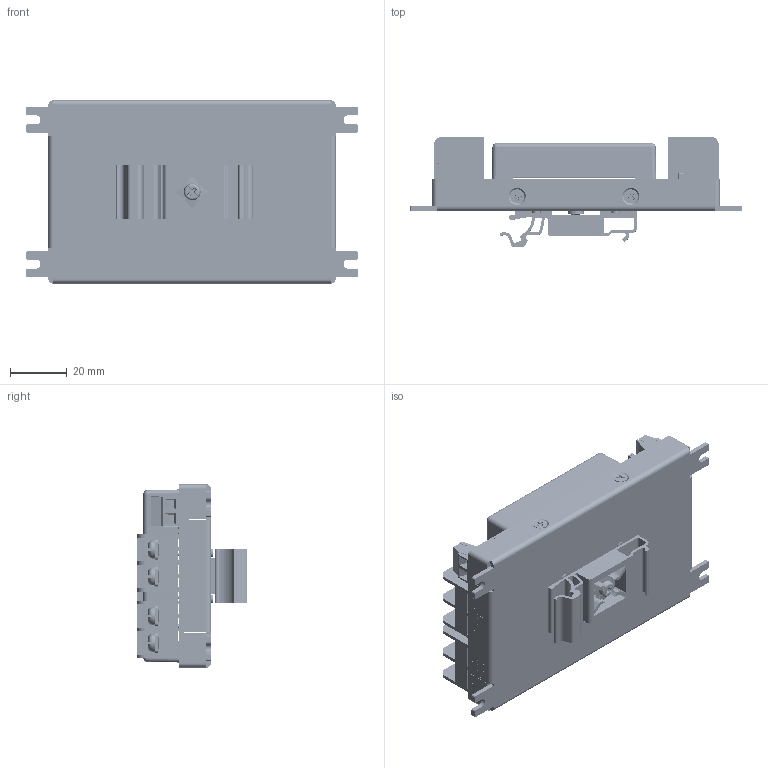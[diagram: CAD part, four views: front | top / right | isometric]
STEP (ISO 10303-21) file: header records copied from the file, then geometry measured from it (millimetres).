
FILE_DESCRIPTION (( 'STEP AP214' ), '1' );
FILE_NAME ('CHB TYPE(無散熱片)(DIN RAIL) SPEC-1021115.STEP', '2018-03-28T08:43:50', ( 'cincon' ), ( '' ), 'SwSTEP 2.0', 'SolidWorks 2008', '' );
FILE_SCHEMA (( 'AUTOMOTIVE_DESIGN' ));
Length unit declared in the file: millimetre
Products named in the file (17): CHB100W內組件示意圖990813; M3.5x8mm圓頭十字螺絲+方型墊片; DIN CLIP PLASTIC-981013_預設; M3x10mm圓頭十字螺絲SMP+W; CHB  鋁板CASE(DIN RAIL)-1020704_預設; PCB Terminal P9.5-4PIN; 平頭十字螺絲 M3x5mm(M-H003-00-S)G75A1100662_預設; ELK508V-02P; CHB PCB-1020322_預設; CHB固定片L型-1020704_預設; ELK508V-03P(DINKLE)-1000221; CMJ-20ABL_預設; Header 2x2PIN; PCB Terminal P9.5-2PIN; CHB100W(G5122441513)990813; CHB100W組合件 990813; CHB TYPE(無散熱片)(DIN RAIL) SPEC-1021115
Assembly tree (26 placements, depth 3):
  CHB TYPE(無散熱片)(DIN RAIL) SPEC-1021115
    M3x10mm圓頭十字螺絲SMP+W  x4
    平頭十字螺絲 M3x5mm(M-H003-00-S)G75A1100662_預設  x4
    PCB Terminal P9.5-2PIN  x2
    M3.5x8mm圓頭十字螺絲+方型墊片
    DIN CLIP PLASTIC-981013_預設
    CHB固定片L型-1020704_預設  x2
    CHB100W組合件 990813
      CHB100W內組件示意圖990813
      CHB100W(G5122441513)990813
    ELK508V-02P
    CMJ-20ABL_預設  x2
    Header 2x2PIN  x2
    CHB  鋁板CASE(DIN RAIL)-1020704_預設
    PCB Terminal P9.5-4PIN
    ELK508V-03P(DINKLE)-1000221
    CHB PCB-1020322_預設
Bounding box: 117 x 39 x 64.6 mm (x, y, z)
Volume: 86197.8 mm3; surface area: 77624.5 mm2
Topology: 30 solids, 30 shells, 2687 faces, 7385 edges, 4855 vertices
Faces by surface type: plane 1507, cylinder 926, cone 111, bspline 91, torus 46, sphere 6
Entity records: 84849 total; most frequent: CARTESIAN_POINT 32652, ORIENTED_EDGE 11202, DIRECTION 9633, EDGE_CURVE 5601, VECTOR 3805, LINE 3805, VERTEX_POINT 3682, AXIS2_PLACEMENT_3D 2914
